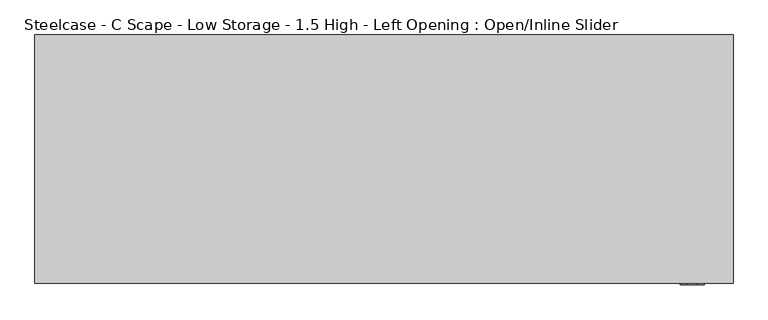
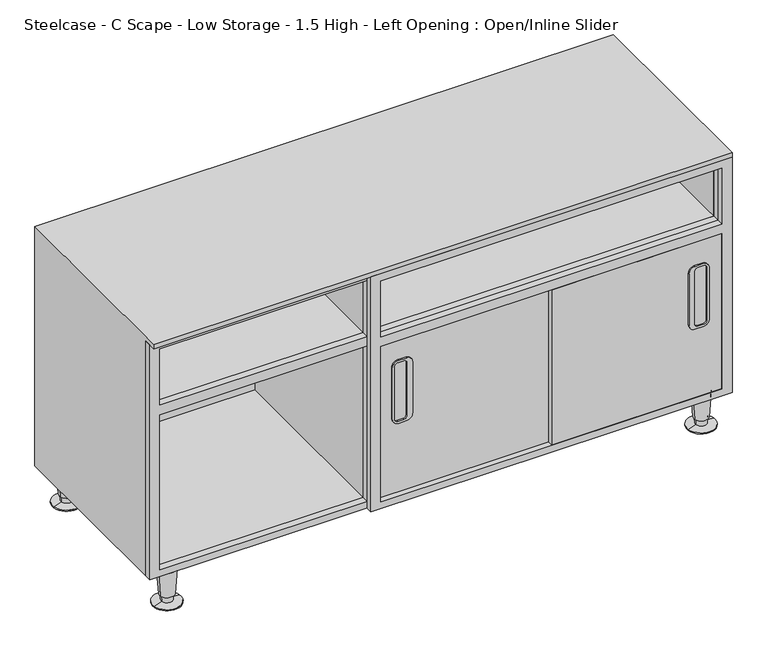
"""IFC4 building model written with IfcOpenShell, lengths in millimetres: furniture geometry, Steelcase - C Scape - Low Storage - 1.5 High - Left Opening : Open/Inline Slider."""

from ifc_helpers import new_model, si_unit, point, frame, frame_2d, origin, place, context, project, spatial, polyline, circle_curve, trimmed, segment, composite_curve, outline, extrude, faceted_brep, source, transform, mapped, element, save
from ifc_brep_helpers import plane_surface, cylinder_surface, revolved_surface, advanced_brep


def steelcase_c_scape_low_storage_1_5_high_left_opening_open_79f42a14(model_context):
    return source(origin(), model_context, "Body", "SolidModel", [
        extrude(outline(composite_curve([segment(trimmed(circle_curve(frame_2d((373.5986349, 1154.9285742)), 12.6992249), [point((373.5986349, 1167.6277991))], [point((386.2978598, 1154.9285742))], False, "CARTESIAN"), True, "CONTINUOUS"), segment(polyline([(386.2978598, 1154.9285742), (386.2978598, 1138.036582)]), True, "CONTINUOUS"), segment(trimmed(circle_curve(frame_2d((373.5986349, 1138.036582)), 12.6992249), [point((386.2978598, 1138.036582))], [point((373.5986349, 1125.3373572))], False, "CARTESIAN"), True, "CONTINUOUS"), segment(polyline([(373.5986349, 1125.3373572), (259.2970725, 1125.3373572)]), True, "CONTINUOUS"), segment(trimmed(circle_curve(frame_2d((259.2970725, 1138.036582)), 12.6992249), [point((259.2970725, 1125.3373572))], [point((246.5978477, 1138.036582))], False, "CARTESIAN"), True, "CONTINUOUS"), segment(polyline([(246.5978477, 1138.036582), (246.5978477, 1154.9285742)]), True, "CONTINUOUS"), segment(trimmed(circle_curve(frame_2d((259.2970725, 1154.9285742)), 12.6992249), [point((246.5978477, 1154.9285742))], [point((259.2970725, 1167.6277991))], False, "CARTESIAN"), True, "CONTINUOUS"), segment(polyline([(259.2970725, 1167.6277991), (373.5986349, 1167.6277991)]), True, "CONTINUOUS")], self_intersect=False), holes=[composite_curve([segment(trimmed(circle_curve(frame_2d((257.7464949, 1156.4525183)), 6.3499939), [point((257.7464949, 1162.8025122))], [point((251.396501, 1156.4525183))], True, "CARTESIAN"), True, "CONTINUOUS"), segment(polyline([(251.396501, 1156.4525183), (251.396501, 1143.7525122)]), True, "CONTINUOUS"), segment(trimmed(circle_curve(frame_2d((257.7472761, 1143.7525122)), 6.3507751), [point((251.396501, 1143.7525122))], [point((257.7472761, 1137.4017371))], True, "CARTESIAN"), True, "CONTINUOUS"), segment(polyline([(257.7472761, 1137.4017371), (375.0937108, 1137.4017371)]), True, "CONTINUOUS"), segment(trimmed(circle_curve(frame_2d((375.0937108, 1143.7525122)), 6.3507752), [point((375.0937108, 1137.4017371))], [point((381.444486, 1143.7525122))], True, "CARTESIAN"), True, "CONTINUOUS"), segment(polyline([(381.444486, 1143.7525122), (381.444486, 1156.4525364)]), True, "CONTINUOUS"), segment(trimmed(circle_curve(frame_2d((375.0945102, 1156.4525364)), 6.3499758), [point((381.444486, 1156.4525364))], [point((375.0945102, 1162.8025122))], True, "CARTESIAN"), True, "CONTINUOUS"), segment(polyline([(375.0945102, 1162.8025122), (257.7464949, 1162.8025122)]), True, "CONTINUOUS")], self_intersect=False)]), frame((0.0, -436.0336786, 0.0), z_axis=(0.0, 1.0, 0.0), x_axis=(0.0, 0.0, 1.0)), (0.0, 0.0, 1.0), 2.9636786),
        extrude(outline(composite_curve([segment(polyline([(373.5986349, 507.5022009), (259.2970725, 507.5022009)]), True, "CONTINUOUS"), segment(trimmed(circle_curve(frame_2d((259.2970725, 520.2014258)), 12.6992249), [point((259.2970725, 507.5022009))], [point((246.5978477, 520.2014258))], False, "CARTESIAN"), True, "CONTINUOUS"), segment(polyline([(246.5978477, 520.2014258), (246.5978477, 537.093418)]), True, "CONTINUOUS"), segment(trimmed(circle_curve(frame_2d((259.2970725, 537.093418)), 12.6992249), [point((246.5978477, 537.093418))], [point((259.2970725, 549.7926428))], False, "CARTESIAN"), True, "CONTINUOUS"), segment(polyline([(259.2970725, 549.7926428), (373.5986349, 549.7926428)]), True, "CONTINUOUS"), segment(trimmed(circle_curve(frame_2d((373.5986349, 537.093418)), 12.6992249), [point((373.5986349, 549.7926428))], [point((386.2978598, 537.093418))], False, "CARTESIAN"), True, "CONTINUOUS"), segment(polyline([(386.2978598, 537.093418), (386.2978598, 520.2014258)]), True, "CONTINUOUS"), segment(trimmed(circle_curve(frame_2d((373.5986349, 520.2014258)), 12.6992249), [point((386.2978598, 520.2014258))], [point((373.5986349, 507.5022009))], False, "CARTESIAN"), True, "CONTINUOUS")], self_intersect=False), holes=[composite_curve([segment(polyline([(257.7464949, 512.3274878), (375.0945102, 512.3274878)]), True, "CONTINUOUS"), segment(trimmed(circle_curve(frame_2d((375.0945102, 518.6774636)), 6.3499758), [point((375.0945102, 512.3274878))], [point((381.444486, 518.6774636))], True, "CARTESIAN"), True, "CONTINUOUS"), segment(polyline([(381.444486, 518.6774636), (381.444486, 531.3774878)]), True, "CONTINUOUS"), segment(trimmed(circle_curve(frame_2d((375.0937108, 531.3774878)), 6.3507752), [point((381.444486, 531.3774878))], [point((375.0937108, 537.728263))], True, "CARTESIAN"), True, "CONTINUOUS"), segment(polyline([(375.0937108, 537.728263), (257.7472761, 537.7282629)]), True, "CONTINUOUS"), segment(trimmed(circle_curve(frame_2d((257.7472761, 531.3774878)), 6.3507751), [point((257.7472761, 537.7282629))], [point((251.396501, 531.3774878))], True, "CARTESIAN"), True, "CONTINUOUS"), segment(polyline([(251.396501, 531.3774878), (251.396501, 518.6774817)]), True, "CONTINUOUS"), segment(trimmed(circle_curve(frame_2d((257.7464949, 518.6774817)), 6.3499939), [point((251.396501, 518.6774817))], [point((257.7464949, 512.3274878))], True, "CARTESIAN"), True, "CONTINUOUS")], self_intersect=False)]), frame((0.0, -424.7026325, 0.0), z_axis=(0.0, 1.0, 0.0), x_axis=(0.0, 0.0, 1.0)), (0.0, 0.0, 1.0), 3.0582917),
        extrude(outline(polyline([(76.2, 1217.93), (599.4400097, 1217.93), (599.4400097, 457.2), (76.2, 457.2), (76.2, 1217.93)]), holes=[polyline([(91.4201587, 1195.959248), (91.4201587, 478.1549612), (436.8419, 478.1549612), (436.8419, 1195.959248), (91.4201587, 1195.959248)]), polyline([(583.5451587, 478.1549612), (583.5451587, 1195.9717991), (458.7875121, 1195.9717991), (458.7875121, 478.1549612), (583.5451587, 478.1549612)])]), frame((0.0, -433.07, 0.0), z_axis=(0.0, 1.0, 0.0), x_axis=(0.0, 0.0, 1.0)), (0.0, 0.0, 1.0), 13.7159457),
        extrude(outline(polyline([(76.2, 0.0), (76.2, 1217.93), (599.4400097, 1217.93), (599.4400097, 0.0), (76.2, 0.0)]), holes=[polyline([(91.4201587, 20.700907), (436.8419, 20.700907), (436.8419, 457.2), (91.4201587, 457.2), (91.4201587, 20.700907)]), polyline([(583.5451587, 1195.959248), (458.7875121, 1195.959248), (458.7875121, 478.1549612), (583.5451587, 478.1549612), (583.5451587, 1195.959248)]), polyline([(458.7875121, 20.700907), (583.5451587, 20.700907), (583.5451587, 457.2), (458.7875121, 457.2), (458.7875121, 20.700907)]), polyline([(91.4201587, 1195.959248), (91.4201587, 478.1549612), (436.8419, 478.1549612), (436.8419, 1195.959248), (91.4201587, 1195.959248)])]), frame((0.0, -419.3540543, 0.0), z_axis=(0.0, 1.0, 0.0), x_axis=(0.0, 0.0, 1.0)), (0.0, 0.0, 1.0), 14.9860039),
        advanced_brep(
        [(1190.0494568, -31.5218435, 76.2), (1152.3877179, -37.2840847, 76.2), (1171.2185874, -34.4029641, 76.2), (1186.0991088, -32.1262463, 19.05), (1156.3380659, -36.6796819, 19.05), (1183.6695219, -32.4979728, 19.05), (1158.7676529, -36.3079555, 19.05), (1182.9807524, -32.6033544, 5.7545598), (1159.4564224, -36.2025738, 5.7545598), (1200.3296359, -29.9489775, 2.5119506), (1142.1075389, -38.8569507, 2.5119506), (1200.3296359, -29.9489775, 0.0), (1142.1075389, -38.8569507, 0.0), (1171.2185874, -34.4029641, 0.0)],
        [
            (0, 1, circle_curve(frame((1171.2185874, -34.4029641, 76.2), z_axis=(0.0, 0.0, 1.0), x_axis=(0.0, -1.0, 0.0)), 19.05)),
            (1, 2),
            (2, 0),
            (1, 0, circle_curve(frame((1171.2185874, -34.4029641, 76.2), z_axis=(0.0, 0.0, 1.0), x_axis=(0.0, -1.0, 0.0)), 19.05)),
            (3, 4, circle_curve(frame((1171.2185874, -34.4029641, 19.05), z_axis=(0.0, 0.0, 1.0), x_axis=(0.0, -1.0, 0.0)), 15.0536827)),
            (4, 1),
            (0, 3),
            (4, 3, circle_curve(frame((1171.2185874, -34.4029641, 19.05), z_axis=(0.0, 0.0, 1.0), x_axis=(0.0, -1.0, 0.0)), 15.0536827)),
            (5, 6, circle_curve(frame((1171.2185874, -34.4029641, 19.05), z_axis=(0.0, 0.0, 1.0), x_axis=(0.0, -1.0, 0.0)), 12.5958232)),
            (6, 4),
            (3, 5),
            (6, 5, circle_curve(frame((1171.2185874, -34.4029641, 19.05), z_axis=(0.0, 0.0, 1.0), x_axis=(0.0, -1.0, 0.0)), 12.5958232)),
            (7, 8, circle_curve(frame((1171.2185874, -34.4029641, 5.7545598), z_axis=(0.0, 0.0, 1.0), x_axis=(0.0, -1.0, 0.0)), 11.8990387)),
            (8, 6),
            (5, 7),
            (8, 7, circle_curve(frame((1171.2185874, -34.4029641, 5.7545598), z_axis=(0.0, 0.0, 1.0), x_axis=(0.0, -1.0, 0.0)), 11.8990387)),
            (9, 10, circle_curve(frame((1171.2185874, -34.4029641, 2.5119506), z_axis=(0.0, 0.0, 1.0), x_axis=(0.0, -1.0, 0.0)), 29.4498071)),
            (10, 8),
            (7, 9),
            (10, 9, circle_curve(frame((1171.2185874, -34.4029641, 2.5119506), z_axis=(0.0, 0.0, 1.0), x_axis=(0.0, -1.0, 0.0)), 29.4498071)),
            (11, 12, circle_curve(frame((1171.2185874, -34.4029641, 0.0), z_axis=(0.0, 0.0, 1.0), x_axis=(0.0, -1.0, 0.0)), 29.4498071)),
            (12, 10),
            (9, 11),
            (12, 11, circle_curve(frame((1171.2185874, -34.4029641, 0.0), z_axis=(0.0, 0.0, 1.0), x_axis=(0.0, -1.0, 0.0)), 29.4498071)),
            (13, 12),
            (11, 13),
        ],
        [
            plane_surface(frame((1171.2185874, -34.4029641, 76.2), z_axis=(0.0, 0.0, 1.0), x_axis=(0.0, -1.0, 0.0))),
            revolved_surface(polyline([(1171.2185874, -53.4529641, 76.2), (1171.2185874, -49.4566468, 19.05)]), (1171.2185874, -34.4029641, 25.4), (0.0, 0.0, -1.0)),
            plane_surface(frame((1171.2185874, -34.4029641, 19.05), z_axis=(0.0, 0.0, -1.0), x_axis=(0.0, -1.0, 0.0))),
            revolved_surface(polyline([(1171.2185874, -46.9987873, 19.05), (1171.2185874, -46.3020028, 5.7545598)]), (1171.2185874, -34.4029641, 25.4), (0.0, 0.0, -1.0)),
            revolved_surface(polyline([(1171.2185874, -46.3020028, 5.7545598), (1171.2185874, -63.8527712, 2.5119506)]), (1171.2185874, -34.4029641, 25.4), (0.0, 0.0, -1.0)),
            cylinder_surface(frame((1171.2185874, -34.4029641, 25.4), z_axis=(0.0, 0.0, -1.0), x_axis=(0.0, -1.0, 0.0)), 29.4498071),
            plane_surface(frame((1171.2185874, -34.4029641, 0.0), z_axis=(0.0, 0.0, -1.0), x_axis=(0.0, -1.0, 0.0))),
        ],
        [
            (0, [[1, 2, 3]]),
            (0, [[4, -3, -2]]),
            (1, [[5, 6, -1, 7]]),
            (1, [[8, -7, -4, -6]]),
            (2, [[9, 10, -5, 11]]),
            (2, [[12, -11, -8, -10]]),
            (3, [[13, 14, -9, 15]]),
            (3, [[16, -15, -12, -14]]),
            (4, [[17, 18, -13, 19]]),
            (4, [[20, -19, -16, -18]]),
            (5, [[21, 22, -17, 23]]),
            (5, [[24, -23, -20, -22]]),
            (6, [[25, -21, 26]]),
            (6, [[-26, -24, -25]]),
        ],
    ),
        advanced_brep(
        [(1190.0494568, -397.1702762, 76.2), (1152.3877179, -402.9325174, 76.2), (1171.2185874, -400.0513968, 76.2), (1186.0991088, -397.774679, 19.05), (1156.3380659, -402.3281146, 19.05), (1183.6695219, -398.1464055, 19.05), (1158.7676529, -401.9563882, 19.05), (1182.9807524, -398.2517871, 5.7545598), (1159.4564224, -401.8510065, 5.7545598), (1200.3296359, -395.5974102, 2.5119506), (1142.1075389, -404.5053834, 2.5119506), (1200.3296359, -395.5974102, 0.0), (1142.1075389, -404.5053834, 0.0), (1171.2185874, -400.0513968, 0.0)],
        [
            (0, 1, circle_curve(frame((1171.2185874, -400.0513968, 76.2), z_axis=(0.0, 0.0, 1.0), x_axis=(0.0, -1.0, 0.0)), 19.05)),
            (1, 2),
            (2, 0),
            (1, 0, circle_curve(frame((1171.2185874, -400.0513968, 76.2), z_axis=(0.0, 0.0, 1.0), x_axis=(0.0, -1.0, 0.0)), 19.05)),
            (3, 4, circle_curve(frame((1171.2185874, -400.0513968, 19.05), z_axis=(0.0, 0.0, 1.0), x_axis=(0.0, -1.0, 0.0)), 15.0536827)),
            (4, 1),
            (0, 3),
            (4, 3, circle_curve(frame((1171.2185874, -400.0513968, 19.05), z_axis=(0.0, 0.0, 1.0), x_axis=(0.0, -1.0, 0.0)), 15.0536827)),
            (5, 6, circle_curve(frame((1171.2185874, -400.0513968, 19.05), z_axis=(0.0, 0.0, 1.0), x_axis=(0.0, -1.0, 0.0)), 12.5958232)),
            (6, 4),
            (3, 5),
            (6, 5, circle_curve(frame((1171.2185874, -400.0513968, 19.05), z_axis=(0.0, 0.0, 1.0), x_axis=(0.0, -1.0, 0.0)), 12.5958232)),
            (7, 8, circle_curve(frame((1171.2185874, -400.0513968, 5.7545598), z_axis=(0.0, 0.0, 1.0), x_axis=(0.0, -1.0, 0.0)), 11.8990387)),
            (8, 6),
            (5, 7),
            (8, 7, circle_curve(frame((1171.2185874, -400.0513968, 5.7545598), z_axis=(0.0, 0.0, 1.0), x_axis=(0.0, -1.0, 0.0)), 11.8990387)),
            (9, 10, circle_curve(frame((1171.2185874, -400.0513968, 2.5119506), z_axis=(0.0, 0.0, 1.0), x_axis=(0.0, -1.0, 0.0)), 29.4498071)),
            (10, 8),
            (7, 9),
            (10, 9, circle_curve(frame((1171.2185874, -400.0513968, 2.5119506), z_axis=(0.0, 0.0, 1.0), x_axis=(0.0, -1.0, 0.0)), 29.4498071)),
            (11, 12, circle_curve(frame((1171.2185874, -400.0513968, 0.0), z_axis=(0.0, 0.0, 1.0), x_axis=(0.0, -1.0, 0.0)), 29.4498071)),
            (12, 10),
            (9, 11),
            (12, 11, circle_curve(frame((1171.2185874, -400.0513968, 0.0), z_axis=(0.0, 0.0, 1.0), x_axis=(0.0, -1.0, 0.0)), 29.4498071)),
            (13, 12),
            (11, 13),
        ],
        [
            plane_surface(frame((1171.2185874, -400.0513968, 76.2), z_axis=(0.0, 0.0, 1.0), x_axis=(0.0, -1.0, 0.0))),
            revolved_surface(polyline([(1171.2185874, -419.1013968, 76.2), (1171.2185874, -415.1050795, 19.05)]), (1171.2185874, -400.0513968, 25.4), (0.0, 0.0, -1.0)),
            plane_surface(frame((1171.2185874, -400.0513968, 19.05), z_axis=(0.0, 0.0, -1.0), x_axis=(0.0, -1.0, 0.0))),
            revolved_surface(polyline([(1171.2185874, -412.64722, 19.05), (1171.2185874, -411.9504355, 5.7545598)]), (1171.2185874, -400.0513968, 25.4), (0.0, 0.0, -1.0)),
            revolved_surface(polyline([(1171.2185874, -411.9504355, 5.7545598), (1171.2185874, -429.5012039, 2.5119506)]), (1171.2185874, -400.0513968, 25.4), (0.0, 0.0, -1.0)),
            cylinder_surface(frame((1171.2185874, -400.0513968, 25.4), z_axis=(0.0, 0.0, -1.0), x_axis=(0.0, -1.0, 0.0)), 29.4498071),
            plane_surface(frame((1171.2185874, -400.0513968, 0.0), z_axis=(0.0, 0.0, -1.0), x_axis=(0.0, -1.0, 0.0))),
        ],
        [
            (0, [[1, 2, 3]]),
            (0, [[4, -3, -2]]),
            (1, [[5, 6, -1, 7]]),
            (1, [[8, -7, -4, -6]]),
            (2, [[9, 10, -5, 11]]),
            (2, [[12, -11, -8, -10]]),
            (3, [[13, 14, -9, 15]]),
            (3, [[16, -15, -12, -14]]),
            (4, [[17, 18, -13, 19]]),
            (4, [[20, -19, -16, -18]]),
            (5, [[21, 22, -17, 23]]),
            (5, [[24, -23, -20, -22]]),
            (6, [[25, -21, 26]]),
            (6, [[-26, -24, -25]]),
        ],
    ),
        advanced_brep(
        [(65.6621195, -397.1702762, 76.2), (28.0003805, -402.9325174, 76.2), (46.83125, -400.0513968, 76.2), (61.7117714, -397.774679, 19.05), (31.9507286, -402.3281146, 19.05), (59.2821845, -398.1464055, 19.05), (34.3803155, -401.9563882, 19.05), (58.593415, -398.2517871, 5.7545598), (35.069085, -401.8510065, 5.7545598), (75.9422985, -395.5974102, 2.5119506), (17.7202015, -404.5053834, 2.5119506), (75.9422985, -395.5974102, 0.0), (17.7202015, -404.5053834, 0.0), (46.83125, -400.0513968, 0.0)],
        [
            (0, 1, circle_curve(frame((46.83125, -400.0513968, 76.2), z_axis=(0.0, 0.0, 1.0), x_axis=(0.0, -1.0, 0.0)), 19.05)),
            (1, 2),
            (2, 0),
            (1, 0, circle_curve(frame((46.83125, -400.0513968, 76.2), z_axis=(0.0, 0.0, 1.0), x_axis=(0.0, -1.0, 0.0)), 19.05)),
            (3, 4, circle_curve(frame((46.83125, -400.0513968, 19.05), z_axis=(0.0, 0.0, 1.0), x_axis=(0.0, -1.0, 0.0)), 15.0536827)),
            (4, 1),
            (0, 3),
            (4, 3, circle_curve(frame((46.83125, -400.0513968, 19.05), z_axis=(0.0, 0.0, 1.0), x_axis=(0.0, -1.0, 0.0)), 15.0536827)),
            (5, 6, circle_curve(frame((46.83125, -400.0513968, 19.05), z_axis=(0.0, 0.0, 1.0), x_axis=(0.0, -1.0, 0.0)), 12.5958232)),
            (6, 4),
            (3, 5),
            (6, 5, circle_curve(frame((46.83125, -400.0513968, 19.05), z_axis=(0.0, 0.0, 1.0), x_axis=(0.0, -1.0, 0.0)), 12.5958232)),
            (7, 8, circle_curve(frame((46.83125, -400.0513968, 5.7545598), z_axis=(0.0, 0.0, 1.0), x_axis=(0.0, -1.0, 0.0)), 11.8990387)),
            (8, 6),
            (5, 7),
            (8, 7, circle_curve(frame((46.83125, -400.0513968, 5.7545598), z_axis=(0.0, 0.0, 1.0), x_axis=(0.0, -1.0, 0.0)), 11.8990387)),
            (9, 10, circle_curve(frame((46.83125, -400.0513968, 2.5119506), z_axis=(0.0, 0.0, 1.0), x_axis=(0.0, -1.0, 0.0)), 29.4498071)),
            (10, 8),
            (7, 9),
            (10, 9, circle_curve(frame((46.83125, -400.0513968, 2.5119506), z_axis=(0.0, 0.0, 1.0), x_axis=(0.0, -1.0, 0.0)), 29.4498071)),
            (11, 12, circle_curve(frame((46.83125, -400.0513968, 0.0), z_axis=(0.0, 0.0, 1.0), x_axis=(0.0, -1.0, 0.0)), 29.4498071)),
            (12, 10),
            (9, 11),
            (12, 11, circle_curve(frame((46.83125, -400.0513968, 0.0), z_axis=(0.0, 0.0, 1.0), x_axis=(0.0, -1.0, 0.0)), 29.4498071)),
            (13, 12),
            (11, 13),
        ],
        [
            plane_surface(frame((46.83125, -400.0513968, 76.2), z_axis=(0.0, 0.0, 1.0), x_axis=(0.0, -1.0, 0.0))),
            revolved_surface(polyline([(46.83125, -419.1013968, 76.2), (46.83125, -415.1050795, 19.05)]), (46.83125, -400.0513968, 25.4), (0.0, 0.0, -1.0)),
            plane_surface(frame((46.83125, -400.0513968, 19.05), z_axis=(0.0, 0.0, -1.0), x_axis=(0.0, -1.0, 0.0))),
            revolved_surface(polyline([(46.83125, -412.64722, 19.05), (46.83125, -411.9504355, 5.7545598)]), (46.83125, -400.0513968, 25.4), (0.0, 0.0, -1.0)),
            revolved_surface(polyline([(46.83125, -411.9504355, 5.7545598), (46.83125, -429.5012039, 2.5119506)]), (46.83125, -400.0513968, 25.4), (0.0, 0.0, -1.0)),
            cylinder_surface(frame((46.83125, -400.0513968, 25.4), z_axis=(0.0, 0.0, -1.0), x_axis=(0.0, -1.0, 0.0)), 29.4498071),
            plane_surface(frame((46.83125, -400.0513968, 0.0), z_axis=(0.0, 0.0, -1.0), x_axis=(0.0, -1.0, 0.0))),
        ],
        [
            (0, [[1, 2, 3]]),
            (0, [[4, -3, -2]]),
            (1, [[5, 6, -1, 7]]),
            (1, [[8, -7, -4, -6]]),
            (2, [[9, 10, -5, 11]]),
            (2, [[12, -11, -8, -10]]),
            (3, [[13, 14, -9, 15]]),
            (3, [[16, -15, -12, -14]]),
            (4, [[17, 18, -13, 19]]),
            (4, [[20, -19, -16, -18]]),
            (5, [[21, 22, -17, 23]]),
            (5, [[24, -23, -20, -22]]),
            (6, [[25, -21, 26]]),
            (6, [[-26, -24, -25]]),
        ],
    ),
        advanced_brep(
        [(65.6621195, -31.5218435, 76.2), (28.0003805, -37.2840847, 76.2), (46.83125, -34.4029641, 76.2), (61.7117714, -32.1262463, 19.05), (31.9507286, -36.6796819, 19.05), (59.2821845, -32.4979728, 19.05), (34.3803155, -36.3079555, 19.05), (58.593415, -32.6033544, 5.7545598), (35.069085, -36.2025738, 5.7545598), (75.9422985, -29.9489775, 2.5119506), (17.7202015, -38.8569507, 2.5119506), (75.9422985, -29.9489775, 0.0), (17.7202015, -38.8569507, 0.0), (46.83125, -34.4029641, 0.0)],
        [
            (0, 1, circle_curve(frame((46.83125, -34.4029641, 76.2), z_axis=(0.0, 0.0, 1.0), x_axis=(0.0, -1.0, 0.0)), 19.05)),
            (1, 2),
            (2, 0),
            (1, 0, circle_curve(frame((46.83125, -34.4029641, 76.2), z_axis=(0.0, 0.0, 1.0), x_axis=(0.0, -1.0, 0.0)), 19.05)),
            (3, 4, circle_curve(frame((46.83125, -34.4029641, 19.05), z_axis=(0.0, 0.0, 1.0), x_axis=(0.0, -1.0, 0.0)), 15.0536827)),
            (4, 1),
            (0, 3),
            (4, 3, circle_curve(frame((46.83125, -34.4029641, 19.05), z_axis=(0.0, 0.0, 1.0), x_axis=(0.0, -1.0, 0.0)), 15.0536827)),
            (5, 6, circle_curve(frame((46.83125, -34.4029641, 19.05), z_axis=(0.0, 0.0, 1.0), x_axis=(0.0, -1.0, 0.0)), 12.5958232)),
            (6, 4),
            (3, 5),
            (6, 5, circle_curve(frame((46.83125, -34.4029641, 19.05), z_axis=(0.0, 0.0, 1.0), x_axis=(0.0, -1.0, 0.0)), 12.5958232)),
            (7, 8, circle_curve(frame((46.83125, -34.4029641, 5.7545598), z_axis=(0.0, 0.0, 1.0), x_axis=(0.0, -1.0, 0.0)), 11.8990387)),
            (8, 6),
            (5, 7),
            (8, 7, circle_curve(frame((46.83125, -34.4029641, 5.7545598), z_axis=(0.0, 0.0, 1.0), x_axis=(0.0, -1.0, 0.0)), 11.8990387)),
            (9, 10, circle_curve(frame((46.83125, -34.4029641, 2.5119506), z_axis=(0.0, 0.0, 1.0), x_axis=(0.0, -1.0, 0.0)), 29.4498071)),
            (10, 8),
            (7, 9),
            (10, 9, circle_curve(frame((46.83125, -34.4029641, 2.5119506), z_axis=(0.0, 0.0, 1.0), x_axis=(0.0, -1.0, 0.0)), 29.4498071)),
            (11, 12, circle_curve(frame((46.83125, -34.4029641, 0.0), z_axis=(0.0, 0.0, 1.0), x_axis=(0.0, -1.0, 0.0)), 29.4498071)),
            (12, 10),
            (9, 11),
            (12, 11, circle_curve(frame((46.83125, -34.4029641, 0.0), z_axis=(0.0, 0.0, 1.0), x_axis=(0.0, -1.0, 0.0)), 29.4498071)),
            (13, 12),
            (11, 13),
        ],
        [
            plane_surface(frame((46.83125, -34.4029641, 76.2), z_axis=(0.0, 0.0, 1.0), x_axis=(0.0, -1.0, 0.0))),
            revolved_surface(polyline([(46.83125, -53.4529641, 76.2), (46.83125, -49.4566468, 19.05)]), (46.83125, -34.4029641, 25.4), (0.0, 0.0, -1.0)),
            plane_surface(frame((46.83125, -34.4029641, 19.05), z_axis=(0.0, 0.0, -1.0), x_axis=(0.0, -1.0, 0.0))),
            revolved_surface(polyline([(46.83125, -46.9987873, 19.05), (46.83125, -46.3020028, 5.7545598)]), (46.83125, -34.4029641, 25.4), (0.0, 0.0, -1.0)),
            revolved_surface(polyline([(46.83125, -46.3020028, 5.7545598), (46.83125, -63.8527712, 2.5119506)]), (46.83125, -34.4029641, 25.4), (0.0, 0.0, -1.0)),
            cylinder_surface(frame((46.83125, -34.4029641, 25.4), z_axis=(0.0, 0.0, -1.0), x_axis=(0.0, -1.0, 0.0)), 29.4498071),
            plane_surface(frame((46.83125, -34.4029641, 0.0), z_axis=(0.0, 0.0, -1.0), x_axis=(0.0, -1.0, 0.0))),
        ],
        [
            (0, [[1, 2, 3]]),
            (0, [[4, -3, -2]]),
            (1, [[5, 6, -1, 7]]),
            (1, [[8, -7, -4, -6]]),
            (2, [[9, 10, -5, 11]]),
            (2, [[12, -11, -8, -10]]),
            (3, [[13, 14, -9, 15]]),
            (3, [[16, -15, -12, -14]]),
            (4, [[17, 18, -13, 19]]),
            (4, [[20, -19, -16, -18]]),
            (5, [[21, 22, -17, 23]]),
            (5, [[24, -23, -20, -22]]),
            (6, [[25, -21, 26]]),
            (6, [[-26, -24, -25]]),
        ],
    ),
        faceted_brep([(0.0, 0.0, 76.2), (0.0, -404.3680504, 76.2), (0.0, -404.3680504, 599.4400097), (0.0, -433.07, 599.4400097), (0.0, -433.07, 609.6), (0.0, 0.0, 609.6), (1217.93, -404.3680504, 76.2), (1217.93, -404.3680504, 599.4400097), (1195.959248, -404.3680504, 599.4400097), (1195.959248, -404.3680504, 458.7875121), (463.5487203, -404.3680504, 458.7875121), (463.5487203, -404.3680504, 599.4400097), (457.2, -404.3680504, 599.4400097), (457.2, -404.3680504, 458.7875121), (20.700907, -404.3680504, 458.7875121), (20.700907, -404.3680504, 599.4400097), (1195.959248, -404.3680504, 91.4201587), (463.5487203, -404.3680504, 91.4201587), (463.5487203, -404.3680504, 436.8419), (1195.959248, -404.3680504, 436.8419), (457.2, -404.3680504, 91.4201587), (20.700907, -404.3680504, 91.4201587), (20.700907, -404.3680504, 436.8419), (457.2, -404.3680504, 436.8419), (20.700907, -9.525, 91.4201587), (20.700907, -9.525, 436.8419), (20.700907, -9.525, 458.7875121), (20.700907, -9.525, 599.4400097), (457.2, -9.525, 91.4201587), (457.2, -9.525, 436.8419), (457.2, -9.525, 458.7875121), (457.2, -9.525, 599.4400097), (463.5487203, -9.525, 91.4201587), (463.5487203, -9.525, 436.8419), (463.5487203, -9.525, 458.7875121), (463.5487203, -9.525, 599.4400097), (1195.959248, -9.525, 91.4201587), (1195.959248, -9.525, 436.8419), (1195.959248, -9.525, 458.7875121), (1195.959248, -9.525, 599.4400097), (1217.93, 0.0, 76.2), (1217.93, 0.0, 609.6), (1217.93, -433.07, 609.6), (1217.93, -433.07, 599.4400097)], [[[0, 1, 2, 3, 4, 5]], [[1, 6, 7, 8, 9, 10, 11, 12, 13, 14, 15, 2], [16, 17, 18, 19], [20, 21, 22, 23]], [[21, 24, 25, 22]], [[14, 26, 27, 15]], [[24, 28, 29, 25]], [[26, 30, 31, 27]], [[28, 20, 23, 29]], [[30, 13, 12, 31]], [[17, 32, 33, 18]], [[10, 34, 35, 11]], [[32, 36, 37, 33]], [[34, 38, 39, 35]], [[36, 16, 19, 37]], [[38, 9, 8, 39]], [[6, 40, 41, 42, 43, 7]], [[41, 40, 0, 5]], [[17, 16, 36, 32]], [[21, 20, 28, 24]], [[0, 40, 6, 1]], [[10, 9, 38, 34]], [[14, 13, 30, 26]], [[19, 18, 33, 37]], [[23, 22, 25, 29]], [[5, 4, 42, 41]], [[43, 3, 2, 15, 27, 31, 12, 11, 35, 39, 8, 7]], [[42, 4, 3, 43]]]),
        extrude(outline(polyline([(837.565, -415.2912402), (837.565, -421.6443408), (463.5487203, -421.6443408), (463.5487203, -415.2912402), (837.565, -415.2912402)])), frame((0.0, 0.0, 91.4201587), z_axis=(0.0, 0.0, 1.0), x_axis=(1.0, 0.0, 0.0)), (0.0, 0.0, 1.0), 345.4217413),
        extrude(outline(polyline([(837.565, -433.07), (837.565, -421.6443408), (1195.959248, -421.6443408), (1195.959248, -433.07), (837.565, -433.07)])), frame((0.0, 0.0, 92.7100024), z_axis=(0.0, 0.0, 1.0), x_axis=(1.0, 0.0, 0.0)), (0.0, 0.0, 1.0), 344.1318976),
    ])


if __name__ == "__main__":
    model = new_model("IFC4")
    model_context = context("Model", 3, world=origin())
    ifc_project = project(units=[si_unit("LENGTHUNIT", "METRE", prefix="MILLI")], contexts=[model_context])
    site = spatial("IfcSite", under=ifc_project)
    building = spatial("IfcBuilding", under=site)
    placement = place(None, origin())
    steelcase_c_scape_low_storage_1_5_high_left_opening_open_shape = steelcase_c_scape_low_storage_1_5_high_left_opening_open_79f42a14(model_context)
    element("IfcFurniture", 1, ObjectType="Steelcase - C Scape - Low Storage - 1.5 High - Left Opening : Open/Inline Slider", at=placement, inside=building, context=model_context, shape_type="MappedRepresentation", body=[
        mapped(steelcase_c_scape_low_storage_1_5_high_left_opening_open_shape, transform((0.0, 0.0, 0.0), x_axis=(1.0, 0.0, 0.0), y_axis=(0.0, 1.0, 0.0), z_axis=(0.0, 0.0, 1.0))),
    ])
    save(model, "model.ifc")
